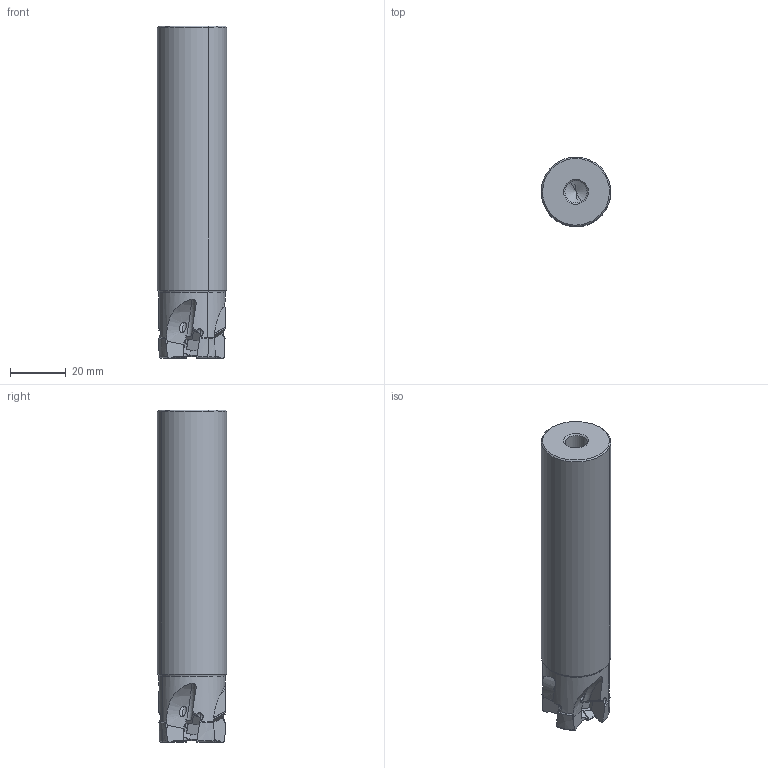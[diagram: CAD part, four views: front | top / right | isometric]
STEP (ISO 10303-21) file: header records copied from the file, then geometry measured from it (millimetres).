
FILE_DESCRIPTION(('CATIA V5 STEP','CAx-IF Rec.Pracs.--- Model Styling and Organization---1.2---2011-12-15'),'2;1');
FILE_NAME('N:\data\isr\design\special1\users\NATALY_B\Tal\NPA\3328006\HM390 ETP D25-4-C25-10.stp','2018-04-25T06:34:32+00:00',('none'),('none'),'CATIA Version 5 Release 21 SP 5 (IN-10)','CATIA V5 STEP AP214','none');
FILE_SCHEMA(('AUTOMOTIVE_DESIGN { 1 0 10303 214 1 1 1 1 }'));
Length unit declared in the file: millimetre
Products named in the file (1): HM390 ETP D25-4-C25-10
Bounding box: 24.99 x 24.99 x 119.4 mm (x, y, z)
Volume: 53876.4 mm3; surface area: 10975.7 mm2
Topology: 1 solids, 1 shells, 232 faces, 662 edges, 427 vertices
Faces by surface type: plane 102, cone 42, torus 42, cylinder 38, sphere 8
Entity records: 8044 total; most frequent: CARTESIAN_POINT 2803, ORIENTED_EDGE 1304, DIRECTION 738, EDGE_CURVE 652, VERTEX_POINT 427, AXIS2_PLACEMENT_3D 300, VECTOR 280, LINE 280
